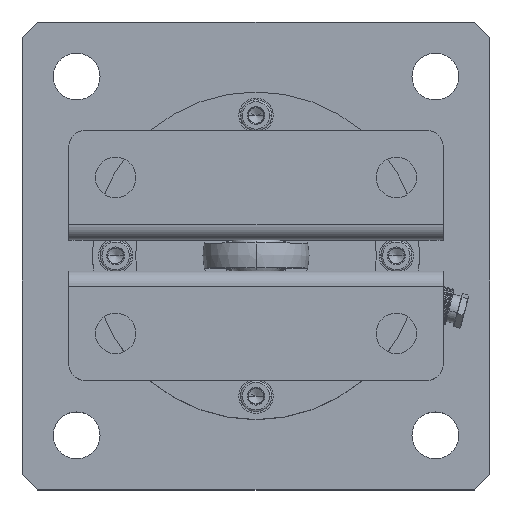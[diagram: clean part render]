
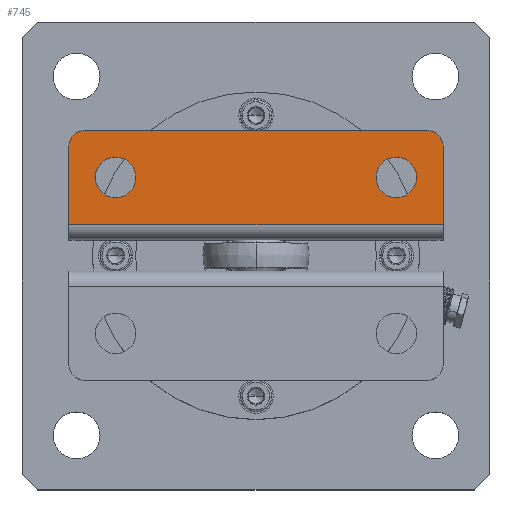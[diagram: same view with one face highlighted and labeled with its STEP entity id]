
A CAD part, top view. The second image highlights one B-rep face of the part: STEP entity #745.
In plain terms, the highlighted planar face has unit normal (0, 0, 1).
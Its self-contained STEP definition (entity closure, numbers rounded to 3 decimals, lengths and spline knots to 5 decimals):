
#745=ADVANCED_FACE('10:52',(#1319,#1320,#1321),#1322,.T.);
#1319=FACE_BOUND('',#2303,.T.);
#1320=FACE_BOUND('',#2304,.T.);
#1321=FACE_OUTER_BOUND('',#2305,.T.);
#1322=PLANE('',#2306);
#2303=EDGE_LOOP('',(#3847,#3848));
#2304=EDGE_LOOP('',(#3849,#3850));
#2305=EDGE_LOOP('',(#3851,#3852,#3853,#3854,#3855,#3856,#3857,#3858));
#2306=AXIS2_PLACEMENT_3D('',#3859,#3860,#3861);
#3847=ORIENTED_EDGE('',*,*,#6734,.F.);
#3848=ORIENTED_EDGE('',*,*,#6694,.F.);
#3849=ORIENTED_EDGE('',*,*,#6735,.F.);
#3850=ORIENTED_EDGE('',*,*,#6698,.F.);
#3851=ORIENTED_EDGE('',*,*,#6727,.F.);
#3852=ORIENTED_EDGE('',*,*,#6736,.F.);
#3853=ORIENTED_EDGE('',*,*,#6737,.F.);
#3854=ORIENTED_EDGE('',*,*,#6712,.F.);
#3855=ORIENTED_EDGE('',*,*,#6738,.F.);
#3856=ORIENTED_EDGE('',*,*,#6739,.T.);
#3857=ORIENTED_EDGE('',*,*,#6740,.T.);
#3858=ORIENTED_EDGE('',*,*,#6722,.F.);
#3859=CARTESIAN_POINT('',(0.06,-0.0024,0.035));
#3860=DIRECTION('',(0.0,0.,1.0));
#3861=DIRECTION('',(0.0,1.0,0.));
#6694=EDGE_CURVE('10:64',#7756,#7759,#7760,.T.);
#6698=EDGE_CURVE('10:67',#7764,#7767,#7768,.T.);
#6712=EDGE_CURVE('15:1050',#7793,#7789,#7795,.T.);
#6722=EDGE_CURVE('16:31',#7812,#7815,#7816,.T.);
#6727=EDGE_CURVE('16:31',#7822,#7812,#7824,.T.);
#6734=EDGE_CURVE('10:64',#7759,#7756,#7835,.T.);
#6735=EDGE_CURVE('10:67',#7767,#7764,#7836,.T.);
#6736=EDGE_CURVE('7:1667',#7837,#7822,#7838,.T.);
#6737=EDGE_CURVE('15:1050',#7789,#7837,#7839,.T.);
#6738=EDGE_CURVE('7:1670',#7840,#7793,#7841,.T.);
#6739=EDGE_CURVE('7:1658',#7840,#7842,#7843,.T.);
#6740=EDGE_CURVE('7:1664',#7842,#7815,#7844,.T.);
#7756=VERTEX_POINT('',#9552);
#7759=VERTEX_POINT('',#9556);
#7760=CIRCLE('',#9557,0.0065);
#7764=VERTEX_POINT('',#9562);
#7767=VERTEX_POINT('',#9566);
#7768=CIRCLE('',#9567,0.0065);
#7789=VERTEX_POINT('',#9593);
#7793=VERTEX_POINT('',#9598);
#7795=CIRCLE('',#9601,0.005);
#7812=VERTEX_POINT('',#9622);
#7815=VERTEX_POINT('',#9626);
#7816=CIRCLE('',#9627,0.005);
#7822=VERTEX_POINT('',#9634);
#7824=CIRCLE('',#9637,0.005);
#7835=CIRCLE('',#9650,0.0065);
#7836=CIRCLE('',#9651,0.0065);
#7837=VERTEX_POINT('',#9652);
#7838=LINE('',#9653,#9654);
#7839=CIRCLE('',#9655,0.005);
#7840=VERTEX_POINT('',#9656);
#7841=LINE('',#9657,#9658);
#7842=VERTEX_POINT('',#9659);
#7843=LINE('',#9660,#9661);
#7844=LINE('',#9662,#9663);
#9552=CARTESIAN_POINT('',(-0.0515,-0.0025,0.035));
#9556=CARTESIAN_POINT('',(-0.0385,-0.0025,0.035));
#9557=AXIS2_PLACEMENT_3D('',#12609,#12610,#12611);
#9562=CARTESIAN_POINT('',(0.0385,-0.0025,0.035));
#9566=CARTESIAN_POINT('',(0.0515,-0.0025,0.035));
#9567=AXIS2_PLACEMENT_3D('',#12617,#12618,#12619);
#9593=CARTESIAN_POINT('',(0.05854,-0.01604,0.035));
#9598=CARTESIAN_POINT('',(0.06,-0.0125,0.035));
#9601=AXIS2_PLACEMENT_3D('',#12645,#12646,#12647);
#9622=CARTESIAN_POINT('',(-0.05854,-0.01604,0.035));
#9626=CARTESIAN_POINT('',(-0.06,-0.0125,0.035));
#9627=AXIS2_PLACEMENT_3D('',#12665,#12666,#12667);
#9634=CARTESIAN_POINT('',(-0.055,-0.0175,0.035));
#9637=AXIS2_PLACEMENT_3D('',#12676,#12677,#12678);
#9650=AXIS2_PLACEMENT_3D('',#12693,#12694,#12695);
#9651=AXIS2_PLACEMENT_3D('',#12696,#12697,#12698);
#9652=CARTESIAN_POINT('',(0.055,-0.0175,0.035));
#9653=CARTESIAN_POINT('',(0.06,-0.0175,0.035));
#9654=VECTOR('',#12699,1.0);
#9655=AXIS2_PLACEMENT_3D('',#12700,#12701,#12702);
#9656=CARTESIAN_POINT('',(0.06,0.0127,0.035));
#9657=CARTESIAN_POINT('',(0.06,0.0127,0.035));
#9658=VECTOR('',#12703,1.0);
#9659=CARTESIAN_POINT('',(-0.06,0.0127,0.035));
#9660=CARTESIAN_POINT('',(0.06,0.0127,0.035));
#9661=VECTOR('',#12704,1.0);
#9662=CARTESIAN_POINT('',(-0.06,0.0127,0.035));
#9663=VECTOR('',#12705,1.0);
#12609=CARTESIAN_POINT('',(-0.045,-0.0025,0.035));
#12610=DIRECTION('',(-0.0,0.,1.0));
#12611=DIRECTION('',(1.0,0.0,0.0));
#12617=CARTESIAN_POINT('',(0.045,-0.0025,0.035));
#12618=DIRECTION('',(-0.0,0.,1.0));
#12619=DIRECTION('',(1.0,0.0,0.0));
#12645=CARTESIAN_POINT('',(0.055,-0.0125,0.035));
#12646=DIRECTION('',(0.,0.,-1.0));
#12647=DIRECTION('',(0.707,-0.707,0.));
#12665=CARTESIAN_POINT('',(-0.055,-0.0125,0.035));
#12666=DIRECTION('',(0.0,0.,-1.0));
#12667=DIRECTION('',(-0.707,-0.707,0.));
#12676=CARTESIAN_POINT('',(-0.055,-0.0125,0.035));
#12677=DIRECTION('',(0.0,0.,-1.0));
#12678=DIRECTION('',(-0.707,-0.707,0.));
#12693=CARTESIAN_POINT('',(-0.045,-0.0025,0.035));
#12694=DIRECTION('',(-0.0,0.,1.0));
#12695=DIRECTION('',(1.0,0.0,0.0));
#12696=CARTESIAN_POINT('',(0.045,-0.0025,0.035));
#12697=DIRECTION('',(-0.0,0.,1.0));
#12698=DIRECTION('',(1.0,0.0,0.0));
#12699=DIRECTION('',(-1.0,0.0,0.0));
#12700=CARTESIAN_POINT('',(0.055,-0.0125,0.035));
#12701=DIRECTION('',(0.,0.,-1.0));
#12702=DIRECTION('',(0.707,-0.707,0.));
#12703=DIRECTION('',(0.0,-1.0,0.));
#12704=DIRECTION('',(-1.0,0.0,0.0));
#12705=DIRECTION('',(0.0,-1.0,0.));
